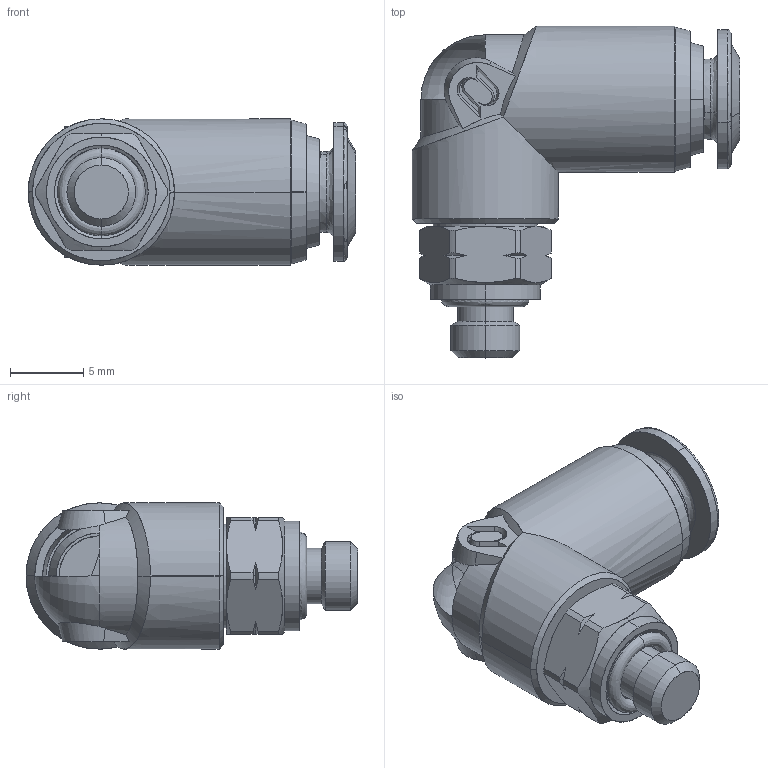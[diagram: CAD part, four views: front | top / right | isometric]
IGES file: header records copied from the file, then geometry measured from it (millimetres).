
Start section: SolidWorks IGES file using analytic representation for surfaces
Global section: file name: K:\Disegni Esecutivi\ALPHA TECHNOLOGIES\Assiemi-89000\89116\89116_iges\8911600002.IGS; native system: SolidWorks 2011; preprocessor: SolidWorks 2011; author: cad05; date: 110215.153839; units: millimetre
Bounding box: 22.4 x 22.7 x 10 mm (x, y, z)
Surface area: 1280.8 mm2 (no closed solid volume)
Topology: 0 solids, 0 shells, 148 faces, 1721 edges, 1719 vertices
Faces by surface type: revolution 83, bspline 65
